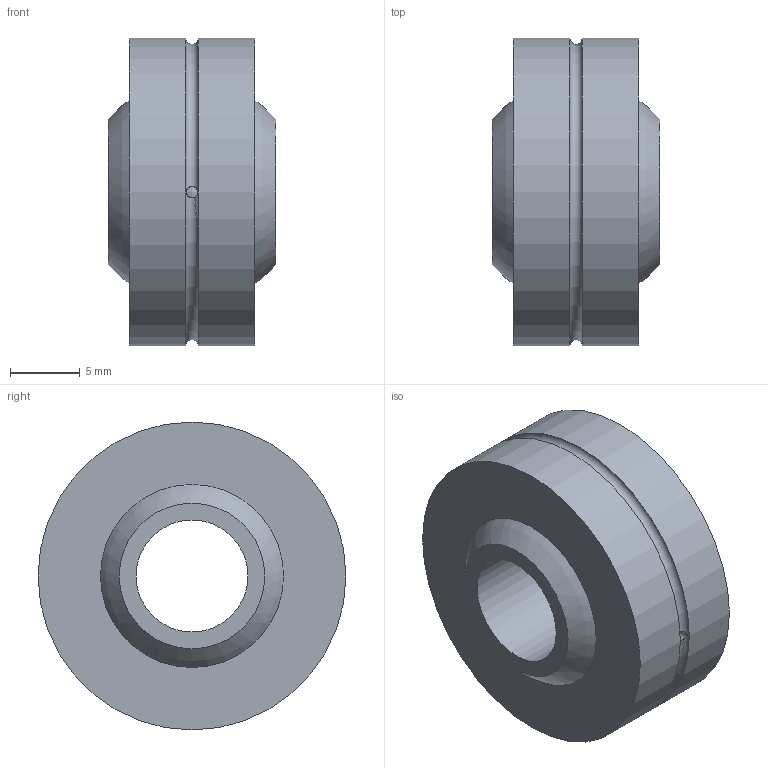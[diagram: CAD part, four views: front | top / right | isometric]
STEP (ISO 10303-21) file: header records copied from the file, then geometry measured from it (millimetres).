
FILE_DESCRIPTION( ( 'STEP AP214' ), ' ' );
FILE_NAME( 'p:/temp/worker_45/232_512/app_61_02017101500141862062602192d056f_000000_00_00_000000/format_0/HPC - SSE8.45.stp', '2017-10-14T22:14:18', ( '' ), ( '' ), ' ', 'PARTsolutions', ' ' );
FILE_SCHEMA( ( 'AUTOMOTIVE_DESIGN { 1 0 10303 214 1 1 1 1 }' ) );
Length unit declared in the file: millimetre
Products named in the file (3): HPC - SSE8.45; _hpc_SSE8.45_1; _hpc_SSE8.45_2
Assembly tree (2 placements, depth 2):
  HPC - SSE8.45
    _hpc_SSE8.45_1
    _hpc_SSE8.45_2
Bounding box: 12 x 22 x 22 mm (x, y, z)
Volume: 3125.1 mm3; surface area: 2578.2 mm2
Topology: 2 solids, 2 shells, 42 faces, 102 edges, 68 vertices
Faces by surface type: plane 30, cylinder 9, bspline 2, torus 1
Full cylindrical faces by diameter (mm): 0.818 x2, 8 x1, 22 x2
Entity records: 1718 total; most frequent: CARTESIAN_POINT 365, DIRECTION 192, ORIENTED_EDGE 184, EDGE_CURVE 92, LINE 70, VECTOR 70, VERTEX_POINT 66, EDGE_LOOP 62
